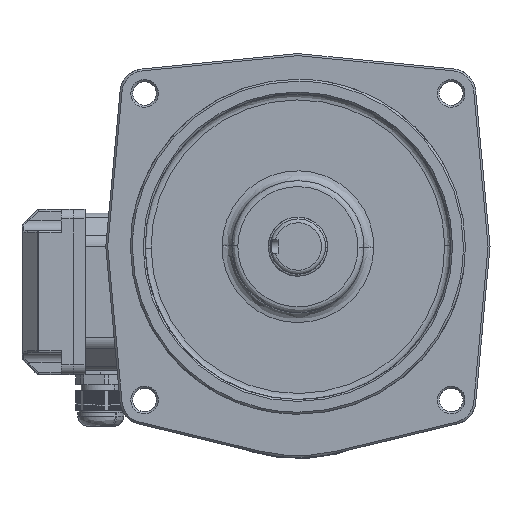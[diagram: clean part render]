
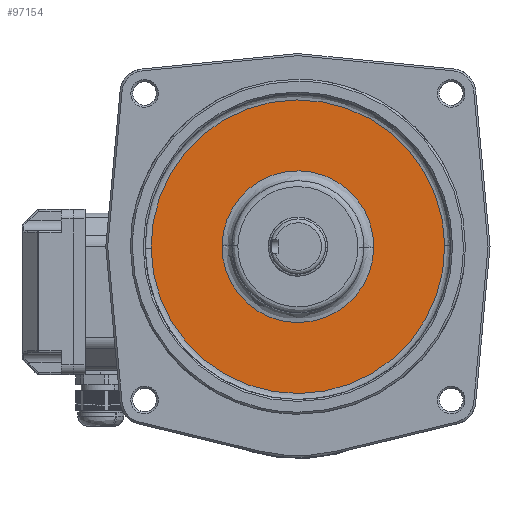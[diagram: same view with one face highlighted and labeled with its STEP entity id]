
A CAD part, top view. The second image highlights one B-rep face of the part: STEP entity #97154.
In plain terms, the highlighted planar face has unit normal (0, 0, 1).
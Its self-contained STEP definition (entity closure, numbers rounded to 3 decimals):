
#3141 = VERTEX_POINT ( 'NONE', #54909 ) ;
#3284 = ORIENTED_EDGE ( 'NONE', *, *, #95705, .F. ) ;
#3496 = AXIS2_PLACEMENT_3D ( 'NONE', #116804, #25975, #53483 ) ;
#7413 = FACE_OUTER_BOUND ( 'NONE', #66420, .T. ) ;
#12909 = AXIS2_PLACEMENT_3D ( 'NONE', #33776, #52875, #89353 ) ;
#14362 = AXIS2_PLACEMENT_3D ( 'NONE', #18258, #45786, #17066 ) ;
#15465 = CARTESIAN_POINT ( 'NONE',  ( -32.968, -185.186, 147.448 ) ) ;
#17066 = DIRECTION ( 'NONE',  ( 1., 0., 0. ) ) ;
#18258 = CARTESIAN_POINT ( 'NONE',  ( 41.529, -184.513, 147.448 ) ) ;
#20513 = CIRCLE ( 'NONE', #12909, 38.5 ) ;
#20816 = DIRECTION ( 'NONE',  ( 0., 0., -1. ) ) ;
#25711 = AXIS2_PLACEMENT_3D ( 'NONE', #37061, #110594, #93264 ) ;
#25975 = DIRECTION ( 'NONE',  ( 0., 0., 1. ) ) ;
#29766 = EDGE_CURVE ( 'NONE', #62358, #3141, #90603, .T. ) ;
#31238 = EDGE_CURVE ( 'NONE', #33158, #74387, #65953, .T. ) ;
#33158 = VERTEX_POINT ( 'NONE', #59813 ) ;
#33776 = CARTESIAN_POINT ( 'NONE',  ( 41.529, -184.513, 147.448 ) ) ;
#37061 = CARTESIAN_POINT ( 'NONE',  ( 41.529, -184.513, 147.448 ) ) ;
#44727 = EDGE_LOOP ( 'NONE', ( #3284, #51834 ) ) ;
#45314 = EDGE_CURVE ( 'NONE', #74387, #33158, #109245, .T. ) ;
#45786 = DIRECTION ( 'NONE',  ( 0., 0., -1. ) ) ;
#46294 = FACE_BOUND ( 'NONE', #44727, .T. ) ;
#51834 = ORIENTED_EDGE ( 'NONE', *, *, #29766, .F. ) ;
#52875 = DIRECTION ( 'NONE',  ( 0., 0., 1. ) ) ;
#53483 = DIRECTION ( 'NONE',  ( 0., 1., 0. ) ) ;
#53532 = ORIENTED_EDGE ( 'NONE', *, *, #45314, .F. ) ;
#54909 = CARTESIAN_POINT ( 'NONE',  ( 3.033, -183.947, 147.448 ) ) ;
#59655 = CARTESIAN_POINT ( 'NONE',  ( 41.529, -184.513, 147.448 ) ) ;
#59813 = CARTESIAN_POINT ( 'NONE',  ( 116.026, -183.84, 147.448 ) ) ;
#62358 = VERTEX_POINT ( 'NONE', #88453 ) ;
#65953 = CIRCLE ( 'NONE', #14362, 74.5 ) ;
#66420 = EDGE_LOOP ( 'NONE', ( #75772, #53532 ) ) ;
#74387 = VERTEX_POINT ( 'NONE', #15465 ) ;
#75772 = ORIENTED_EDGE ( 'NONE', *, *, #31238, .F. ) ;
#80381 = PLANE ( 'NONE',  #3496 ) ;
#88453 = CARTESIAN_POINT ( 'NONE',  ( 80.025, -185.08, 147.448 ) ) ;
#89353 = DIRECTION ( 'NONE',  ( 1., 0., 0. ) ) ;
#90603 = CIRCLE ( 'NONE', #25711, 38.5 ) ;
#93264 = DIRECTION ( 'NONE',  ( 1., 0., 0. ) ) ;
#93745 = DIRECTION ( 'NONE',  ( 1., 0., 0. ) ) ;
#95705 = EDGE_CURVE ( 'NONE', #3141, #62358, #20513, .T. ) ;
#97154 = ADVANCED_FACE ( 'NONE', ( #7413, #46294 ), #80381, .T. ) ;
#109245 = CIRCLE ( 'NONE', #111114, 74.5 ) ;
#110594 = DIRECTION ( 'NONE',  ( 0., 0., 1. ) ) ;
#111114 = AXIS2_PLACEMENT_3D ( 'NONE', #59655, #20816, #93745 ) ;
#116804 = CARTESIAN_POINT ( 'NONE',  ( 41.529, -184.513, 147.448 ) ) ;
